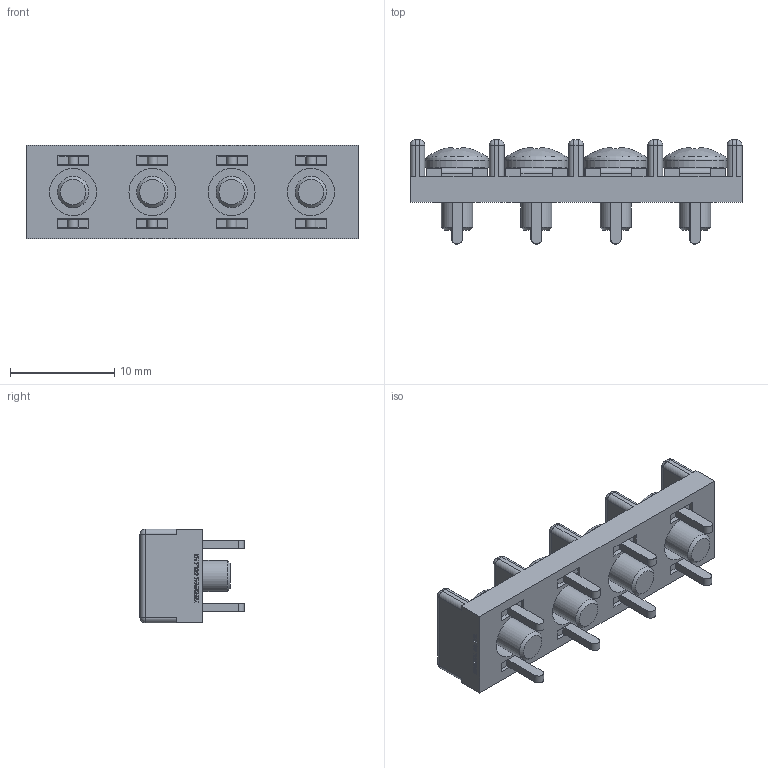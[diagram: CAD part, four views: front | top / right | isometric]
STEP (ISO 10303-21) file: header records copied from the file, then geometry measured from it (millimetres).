
FILE_DESCRIPTION(/* description */ ('Alibre Inc.'),/* implementation_level */ '2;1');
FILE_NAME(/* name */ 'export0',/* time_stamp */ '2015-11-28T15:40:01+09:00',/* author */ (''),/* organization */ (''),/* preprocessor_version */ 'ST-DEVELOPER v14',/* originating_system */ 'Alibre',/* authorisation */ '');
FILE_SCHEMA (('CONFIG_CONTROL_DESIGN'));
Length unit declared in the file: centimetre
Products named in the file (1): ID_1
Bounding box: 31.9 x 10 x 9 mm (x, y, z)
Volume: 1201 mm3; surface area: 2211.5 mm2
Topology: 1 solids, 49 shells, 1110 faces, 2872 edges, 1876 vertices
Faces by surface type: plane 782, bspline 208, cylinder 72, sphere 24, cone 20, torus 4
Full cylindrical faces by diameter (mm): 3 x8, 4.5 x4, 6.1 x4
Entity records: 32303 total; most frequent: CARTESIAN_POINT 7707, ORIENTED_EDGE 5640, DIRECTION 3544, EDGE_CURVE 2820, VECTOR 2104, LINE 2104, VERTEX_POINT 1868, EDGE_LOOP 1210
